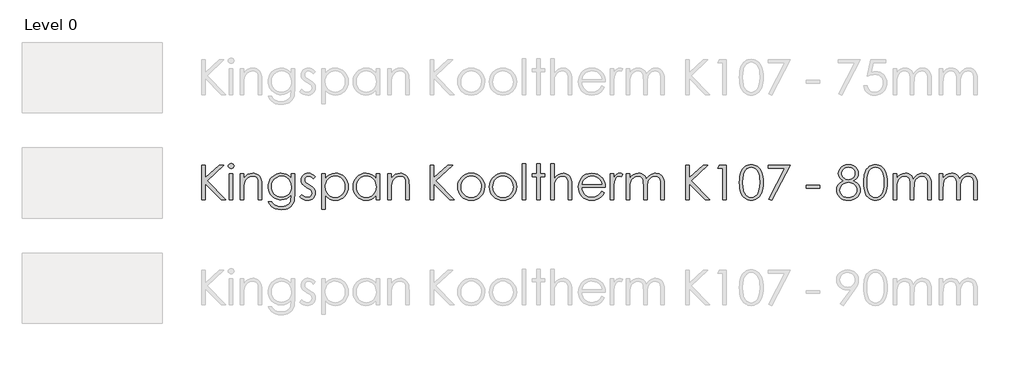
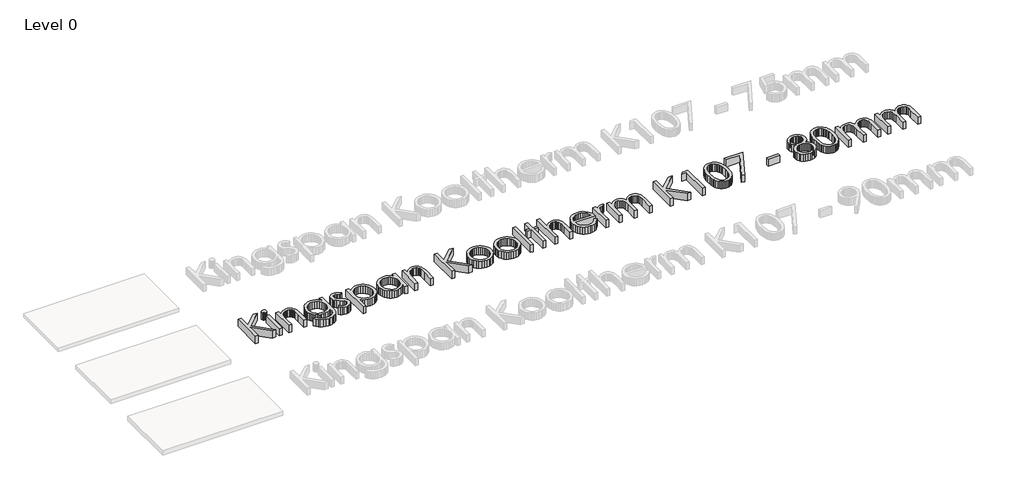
# One storey, part 7 of 13: 1 proxy.
"""IFC4 building model written with IfcOpenShell, lengths in millimetres."""

from ifc_helpers import new_model, si_unit, origin, origin_with_axes, place, context, project, spatial, polyline, outline, extrude, element, save

model = new_model("IFC4")

# Units and contexts
model_context = context("Model", 3, world=origin())
ifc_project = project(units=[si_unit("LENGTHUNIT", "METRE", prefix="MILLI")], contexts=[model_context])

# Site, building, storey
site = spatial("IfcSite", under=ifc_project)
building = spatial("IfcBuilding", under=site)
storey = spatial("IfcBuildingStorey", under=building, Name="Level 0", Elevation=0.0)

# Proxy
placement = place(None, origin())
element("IfcBuildingElementProxy", 1, Name="600mm KI_CenturyGothic", ObjectType="600mm KI_CenturyGothic", at=placement, inside=storey, context=model_context, shape_type="SweptSolid", body=[
    extrude(outline(polyline([(-3852.2663848, -4899.1034017), (-3792.944575, -4899.1034017), (-3792.944575, -5118.316027), (-3555.1938841, -4899.1034017), (-3471.6181051, -4899.1034017), (-3760.9664119, -5166.0515459), (-3441.9572002, -5492.3214999), (-3520.8984627, -5492.3214999), (-3792.944575, -5214.0960325), (-3792.944575, -5492.3214999), (-3852.2663848, -5492.3214999), (-3852.2663848, -4899.1034017)])), origin_with_axes(), (0.0, 0.0, 1.0), 150.0),
    extrude(outline(polyline([(-3348.1854852, -4869.4424967), (-3329.145347, -4872.7252792), (-3313.1176445, -4882.5736265), (-3302.226531, -4897.0178693), (-3298.5961598, -4914.088338), (-3302.226531, -4930.9270809), (-3313.1176445, -4945.2940817), (-3329.145347, -4955.142429), (-3348.1854852, -4958.4252115), (-3366.9938975, -4955.142429), (-3382.9443581, -4945.2940817), (-3393.8354717, -4930.9270809), (-3397.4658428, -4914.088338), (-3393.8354717, -4897.0178693), (-3382.9443581, -4882.5736265), (-3366.9938975, -4872.7252792), (-3348.1854852, -4869.4424967)])), origin_with_axes(), (0.0, 0.0, 1.0), 150.0),
    extrude(outline(polyline([(-3377.6919062, -5047.4079262), (-3318.3700964, -5047.4079262), (-3318.3700964, -5492.3214999), (-3377.6919062, -5492.3214999), (-3377.6919062, -5047.4079262)])), origin_with_axes(), (0.0, 0.0, 1.0), 150.0),
    extrude(outline(polyline([(-3189.8395084, -5047.4079262), (-3130.5176986, -5047.4079262), (-3130.5176986, -5126.5036726), (-3096.9946967, -5086.9944204), (-3060.0730495, -5059.303185), (-3019.7141359, -5042.9665147), (-2975.879335, -5037.5209579), (-2953.4357238, -5039.0995901), (-2932.2955704, -5043.8354865), (-2912.4588747, -5051.7286472), (-2893.9256368, -5062.7790723), (-2877.212412, -5076.5039994), (-2862.835756, -5092.4206667), (-2841.0921499, -5130.8292213), (-2833.6238199, -5155.2087086), (-2828.2892984, -5185.5551357), (-2824.0216812, -5264.1488095), (-2824.0216812, -5492.3214999), (-2883.343491, -5492.3214999), (-2883.343491, -5279.1337458), (-2883.343491, -5176.092998), (-2884.7290183, -5155.2956057), (-2889.8125035, -5137.2403023), (-2898.2849788, -5121.9270877), (-2910.1464442, -5109.355962), (-2924.7403432, -5099.5558909), (-2941.4101193, -5092.5558401), (-2980.977303, -5086.9557994), (-3005.3471351, -5089.1137461), (-3028.4038541, -5095.5875862), (-3050.1474602, -5106.3773197), (-3070.5779533, -5121.4829466), (-3088.6622225, -5139.7651482), (-3103.3671568, -5160.084606), (-3114.6927562, -5182.44132), (-3122.6390208, -5206.8352901), (-3128.5480292, -5253.9142525), (-3130.5176986, -5328.4141035), (-3130.5176986, -5492.3214999), (-3189.8395084, -5492.3214999), (-3189.8395084, -5047.4079262)])), origin_with_axes(), (0.0, 0.0, 1.0), 150.0),
    extrude(outline(polyline([(-2319.7862977, -5047.4079262), (-2260.4644879, -5047.4079262), (-2260.4644879, -5398.395301), (-2264.5196897, -5478.6496765), (-2269.588692, -5509.4499001), (-2276.6852953, -5534.0321474), (-2289.9371156, -5562.6454585), (-2307.2924139, -5587.7732271), (-2328.7511904, -5609.4154531), (-2354.3134448, -5627.5721366), (-2383.3226209, -5641.9343098), (-2415.122162, -5652.1930049), (-2449.7120682, -5658.348222), (-2487.0923395, -5660.3999611), (-2541.0458345, -5656.3833802), (-2589.206184, -5644.3336376), (-2630.260275, -5625.5059147), (-2662.8949946, -5601.1553932), (-2690.2000204, -5567.8061856), (-2715.2650299, -5521.9824048), (-2655.94322, -5521.9824048), (-2642.4355358, -5543.151524), (-2627.0933555, -5561.3951046), (-2609.9166791, -5576.7131468), (-2590.9055067, -5589.1056506), (-2569.7894914, -5598.6691682), (-2546.2982864, -5605.5002523), (-2492.1903075, -5610.9651195), (-2438.5071593, -5605.6354257), (-2415.083541, -5598.9733084), (-2393.93856, -5589.6463441), (-2359.6624492, -5565.6047903), (-2336.8567664, -5536.1176798), (-2329.3884364, -5517.4782342), (-2324.0539149, -5493.7697863), (-2319.7862977, -5431.1458835), (-2319.7862977, -5408.4367532), (-2354.757586, -5444.2190818), (-2396.6420279, -5470.6165148), (-2443.392712, -5486.8952536), (-2492.9627269, -5492.3214999), (-2522.4063889, -5490.4242447), (-2550.9521133, -5484.7324793), (-2578.5999001, -5475.2462036), (-2605.3497494, -5461.9654175), (-2630.1540674, -5445.4742634), (-2651.9652601, -5426.3568832), (-2670.7833277, -5404.6132772), (-2686.6082702, -5380.2434451), (-2699.1456025, -5353.9280817), (-2708.1008399, -5326.3478816), (-2713.4739824, -5297.5028447), (-2715.2650299, -5267.392971), (-2713.3967404, -5237.1044753), (-2707.7918722, -5207.8780563), (-2698.4504251, -5179.713714), (-2685.3723991, -5152.6114483), (-2668.9971079, -5127.4257483), (-2649.7638648, -5105.0111029), (-2627.67267, -5085.367512), (-2602.7235235, -5068.4949758), (-2575.9833294, -5054.943843), (-2548.5189922, -5045.2644624), (-2520.3305117, -5039.456834), (-2491.4178881, -5037.5209579), (-2444.5320306, -5042.4644421), (-2400.8903346, -5057.2948945), (-2359.6045177, -5083.8661218), (-2319.7862977, -5124.0319306), (-2319.7862977, -5047.4079262)]), holes=[polyline([(-2484.1571458, -5086.9557994), (-2529.0154023, -5092.9806707), (-2570.5908765, -5111.0552847), (-2606.2187212, -5139.7699758), (-2633.2340897, -5177.7150788), (-2650.2659375, -5221.9940208), (-2655.94322, -5269.7102292), (-2653.0080263, -5305.6229036), (-2644.2024452, -5338.2817613), (-2629.5264766, -5367.6868023), (-2608.9801206, -5393.8380266), (-2583.7606272, -5415.296803), (-2555.0652466, -5430.6245004), (-2522.8939786, -5439.8211189), (-2487.2468234, -5442.8866584), (-2451.3244937, -5439.845257), (-2419.1001219, -5430.7210528), (-2390.573708, -5415.5140459), (-2365.7452519, -5394.2242363), (-2345.6382095, -5367.9812872), (-2331.2760363, -5337.9148621), (-2322.6587323, -5304.024961), (-2319.7862977, -5266.3115838), (-2325.0773706, -5217.6105407), (-2340.9505892, -5174.3936754), (-2366.4983608, -5138.1672056), (-2400.8130926, -5110.4373492), (-2440.9982119, -5092.8261869), (-2484.1571458, -5086.9557994)])]), origin_with_axes(), (0.0, 0.0, 1.0), 150.0),
    extrude(outline(polyline([(-1904.5336289, -5098.6965743), (-1940.9918246, -5136.390641), (-1962.9575012, -5114.7628978), (-1984.6721416, -5099.3145098), (-2006.1357456, -5090.045477), (-2027.3483133, -5086.9557994), (-2052.181597, -5091.6289368), (-2073.2300256, -5105.6483489), (-2087.5970264, -5125.8857371), (-2092.3860267, -5149.212803), (-2088.4466878, -5170.7633042), (-2076.628671, -5191.2324183), (-2052.0657341, -5213.400855), (-2010.2006027, -5239.122421), (-1958.3326401, -5271.9888664), (-1939.8428507, -5287.8138088), (-1926.315856, -5303.2332311), (-1909.9791857, -5335.9065716), (-1904.5336289, -5372.4420092), (-1906.9474396, -5398.5884059), (-1914.1888714, -5422.6492701), (-1926.2579245, -5444.624602), (-1943.1545989, -5464.5144015), (-1963.6719892, -5481.0055557), (-1986.6031901, -5492.7849515), (-2011.9482016, -5499.852589), (-2039.7070237, -5502.2084682), (-2077.4397114, -5498.3270607), (-2113.3958344, -5486.6828383), (-2145.4512394, -5468.2027042), (-2171.4817731, -5443.8135617), (-2135.7959969, -5403.3387852), (-2114.0041146, -5424.9665283), (-2091.5749863, -5440.4149163), (-2068.5086121, -5449.6839491), (-2044.8049918, -5452.7736267), (-2013.637869, -5447.1349651), (-1987.4914724, -5430.2189802), (-1969.7644472, -5405.6560434), (-1963.8554388, -5377.0765256), (-1967.7561567, -5353.2860081), (-1979.4583106, -5332.2762005), (-2005.0253927, -5310.5712154), (-2050.2119275, -5283.7682622), (-2099.762632, -5253.1032121), (-2117.441381, -5237.9444814), (-2130.3890611, -5222.9016136), (-2146.3781427, -5190.7689666), (-2151.7078365, -5154.310771), (-2149.5305794, -5130.2643896), (-2142.9988078, -5108.3325063), (-2132.1125219, -5088.5151211), (-2116.8717217, -5070.812234), (-2098.309518, -5056.2473007), (-2077.4590218, -5045.8437769), (-2054.3202332, -5039.6016627), (-2028.8931521, -5037.5209579), (-1997.9481, -5041.3444339), (-1966.9064954, -5052.814862), (-1935.7683384, -5071.9322421), (-1904.5336289, -5098.6965743)])), origin_with_axes(), (0.0, 0.0, 1.0), 150.0),
    extrude(outline(polyline([(-1795.7769776, -5047.4079262), (-1736.4551678, -5047.4079262), (-1736.4551678, -5128.5119631), (-1700.9238754, -5088.2689124), (-1660.4490989, -5059.9211205), (-1614.9922173, -5043.1209986), (-1564.5146096, -5037.5209579), (-1520.0618732, -5041.7596094), (-1478.9305402, -5054.4755637), (-1441.1206107, -5075.668821), (-1406.6320845, -5105.3393811), (-1377.9077381, -5140.9768811), (-1357.3903478, -5180.070958), (-1345.0799137, -5222.6216116), (-1340.9764356, -5268.628842), (-1345.0412927, -5315.5291824), (-1357.235864, -5358.7508754), (-1377.5601494, -5398.293921), (-1406.014149, -5434.1583192), (-1440.2130179, -5463.9302594), (-1477.7719111, -5485.1959309), (-1518.6908288, -5497.9553339), (-1562.9697708, -5502.2084682), (-1612.6170277, -5496.743601), (-1658.0545988, -5480.3489992), (-1699.3211052, -5453.1019049), (-1736.4551678, -5415.07956), (-1736.4551678, -5650.5129928), (-1795.7769776, -5650.5129928), (-1795.7769776, -5047.4079262)]), holes=[polyline([(-1568.5311905, -5086.9557994), (-1602.5852307, -5090.2530647), (-1633.8392507, -5100.1448607), (-1662.2932503, -5116.6311872), (-1687.9472295, -5139.7120444), (-1709.1694525, -5167.6977647), (-1724.3281832, -5198.8986808), (-1733.4234216, -5233.3147926), (-1736.4551678, -5270.9461002), (-1731.048232, -5319.8016272), (-1714.8274246, -5363.4819442), (-1688.5265441, -5400.3263495), (-1652.8793888, -5428.6741414), (-1611.4390881, -5446.7487554), (-1567.7587711, -5452.7736267), (-1525.0632888, -5446.7101344), (-1485.0326535, -5428.5196576), (-1450.2544701, -5399.4187567), (-1423.3163435, -5360.6239924), (-1406.05277, -5315.9588407), (-1400.2982454, -5269.2467775), (-1405.9948385, -5222.3029886), (-1423.0846177, -5177.8695627), (-1449.8103289, -5139.5189395), (-1484.414718, -5110.8235589), (-1524.7157001, -5092.9227393), (-1568.5311905, -5086.9557994)])]), origin_with_axes(), (0.0, 0.0, 1.0), 150.0),
    extrude(outline(polyline([(-807.0801472, -5047.4079262), (-807.0801472, -5492.3214999), (-866.401957, -5492.3214999), (-866.401957, -5416.4699149), (-903.4780882, -5454.3184655), (-944.8797679, -5481.0441767), (-990.4525125, -5496.9173953), (-1040.0418379, -5502.2084682), (-1084.3159523, -5497.9553339), (-1125.2203871, -5485.1959309), (-1162.7551422, -5463.9302594), (-1196.9202178, -5434.1583192), (-1225.340424, -5398.293921), (-1245.6405713, -5358.7508754), (-1257.8206597, -5315.5291824), (-1261.8806892, -5268.628842), (-1257.7820388, -5222.6216116), (-1245.4860875, -5180.070958), (-1224.9928353, -5140.9768811), (-1196.3022822, -5105.3393811), (-1161.8475494, -5075.668821), (-1124.061758, -5054.4755637), (-1082.9449079, -5041.7596094), (-1038.4969991, -5037.5209579), (-987.7490446, -5043.1209986), (-942.0990581, -5059.9211205), (-921.2051134, -5072.6081091), (-901.6242816, -5088.2689124), (-866.401957, -5128.5119631), (-866.401957, -5047.4079262), (-807.0801472, -5047.4079262)]), holes=[polyline([(-1034.3259343, -5086.9557994), (-1078.1414247, -5092.9227393), (-1118.4424068, -5110.8235589), (-1153.0467959, -5139.5189395), (-1179.7725071, -5177.8695627), (-1196.8622863, -5222.3029886), (-1202.5588794, -5269.2467775), (-1196.8043548, -5315.9588407), (-1179.5407813, -5360.6239924), (-1152.6026548, -5399.4187567), (-1117.8244713, -5428.5196576), (-1077.6779731, -5446.7101344), (-1034.6349021, -5452.7736267), (-991.0125165, -5446.7487554), (-949.7460102, -5428.6741414), (-914.2726493, -5400.3263495), (-888.0297002, -5363.4819442), (-871.8088928, -5319.8016272), (-866.401957, -5270.9461002), (-869.4337032, -5233.3147926), (-878.5289416, -5198.8986808), (-893.6876723, -5167.6977647), (-914.9098953, -5139.7120444), (-940.5638746, -5116.6311872), (-969.0178742, -5100.1448607), (-1000.2718941, -5090.2530647), (-1034.3259343, -5086.9557994)])]), origin_with_axes(), (0.0, 0.0, 1.0), 150.0),
    extrude(outline(polyline([(-668.662591, -5047.4079262), (-609.3407811, -5047.4079262), (-609.3407811, -5126.5036726), (-575.8177792, -5086.9944204), (-538.896132, -5059.303185), (-498.5372184, -5042.9665147), (-454.7024175, -5037.5209579), (-432.2588064, -5039.0995901), (-411.1186529, -5043.8354865), (-391.2819572, -5051.7286472), (-372.7487193, -5062.7790723), (-356.0354946, -5076.5039994), (-341.6588385, -5092.4206667), (-319.9152324, -5130.8292213), (-312.4469024, -5155.2087086), (-307.1123809, -5185.5551357), (-302.8447637, -5264.1488095), (-302.8447637, -5492.3214999), (-362.1665735, -5492.3214999), (-362.1665735, -5279.1337458), (-362.1665735, -5176.092998), (-363.5521008, -5155.2956057), (-368.635586, -5137.2403023), (-377.1080613, -5121.9270877), (-388.9695267, -5109.355962), (-403.5634257, -5099.5558909), (-420.2332018, -5092.5558401), (-459.8003855, -5086.9557994), (-484.1702176, -5089.1137461), (-507.2269366, -5095.5875862), (-528.9705427, -5106.3773197), (-549.4010358, -5121.4829466), (-567.485305, -5139.7651482), (-582.1902393, -5160.084606), (-593.5158387, -5182.44132), (-601.4621033, -5206.8352901), (-607.3711117, -5253.9142525), (-609.3407811, -5328.4141035), (-609.3407811, -5492.3214999), (-668.662591, -5492.3214999), (-668.662591, -5047.4079262)])), origin_with_axes(), (0.0, 0.0, 1.0), 150.0),
    extrude(outline(polyline([(62.9730635, -4899.1034017), (122.2948734, -4899.1034017), (122.2948734, -5118.316027), (360.0455643, -4899.1034017), (443.6213432, -4899.1034017), (154.2730365, -5166.0515459), (473.2822481, -5492.3214999), (394.3409856, -5492.3214999), (122.2948734, -5214.0960325), (122.2948734, -5492.3214999), (62.9730635, -5492.3214999), (62.9730635, -4899.1034017)])), origin_with_axes(), (0.0, 0.0, 1.0), 150.0),
    extrude(outline(polyline([(760.1588128, -5037.5209579), (809.4681362, -5042.1458191), (854.3553585, -5056.0204025), (894.8204798, -5079.1447083), (930.8635, -5111.5187363), (957.7630055, -5146.7507161), (976.9769381, -5185.091684), (988.5052976, -5226.54164), (992.3480841, -5271.1005841), (988.283227, -5315.9153921), (976.0886558, -5357.8239721), (955.7643703, -5396.8263241), (927.3103707, -5432.9224481), (892.4742558, -5463.2350819), (853.0036246, -5484.8869632), (808.8984769, -5497.8780919), (760.1588128, -5502.2084682), (711.2839754, -5497.8780919), (667.0822753, -5484.8869632), (627.5537126, -5463.2350819), (592.6982872, -5432.9224481), (564.2442876, -5396.8263241), (543.9200022, -5357.8239721), (531.7254309, -5315.9153921), (527.6605738, -5271.1005841), (531.5033603, -5226.7347449), (543.0317198, -5185.4006518), (562.2456524, -5147.0983049), (589.145158, -5111.8277041), (625.2074886, -5079.3185026), (665.7305413, -5056.0976445), (710.7143161, -5042.1651295), (760.1588128, -5037.5209579)]), holes=[polyline([(760.004329, -5086.9557994), (725.7282181, -5090.3303067), (693.9624704, -5100.4538284), (664.7070856, -5117.3263647), (637.962064, -5140.9479154), (615.6584538, -5169.3584664), (599.7273037, -5200.5980035), (590.1686137, -5234.6665266), (586.9823836, -5271.5640357), (592.7948396, -5319.2995546), (610.2322075, -5363.6364281), (637.5758543, -5401.4270471), (673.1071466, -5429.5238028), (714.6439998, -5446.9611707), (760.004329, -5452.7736267), (805.3646581, -5446.9611707), (846.9015113, -5429.5238028), (882.4328037, -5401.4270471), (909.7764504, -5363.6364281), (927.2138183, -5319.2995546), (933.0262743, -5271.5640357), (929.8255614, -5234.6665266), (920.2234227, -5200.5980035), (904.2198583, -5169.3584664), (881.8148681, -5140.9479154), (854.9974321, -5117.3263647), (825.7565303, -5100.4538284), (794.0921625, -5090.3303067), (760.004329, -5086.9557994)])]), origin_with_axes(), (0.0, 0.0, 1.0), 150.0),
    extrude(outline(polyline([(1303.9420695, -5037.5209579), (1353.2513929, -5042.1458191), (1398.1386152, -5056.0204025), (1438.6037365, -5079.1447083), (1474.6467567, -5111.5187363), (1501.5462622, -5146.7507161), (1520.7601948, -5185.091684), (1532.2885543, -5226.54164), (1536.1313408, -5271.1005841), (1532.0664837, -5315.9153921), (1519.8719125, -5357.8239721), (1499.547627, -5396.8263241), (1471.0936274, -5432.9224481), (1436.2575126, -5463.2350819), (1396.7868813, -5484.8869632), (1352.6817336, -5497.8780919), (1303.9420695, -5502.2084682), (1255.0672321, -5497.8780919), (1210.865532, -5484.8869632), (1171.3369693, -5463.2350819), (1136.4815439, -5432.9224481), (1108.0275443, -5396.8263241), (1087.7032589, -5357.8239721), (1075.5086876, -5315.9153921), (1071.4438305, -5271.1005841), (1075.286617, -5226.7347449), (1086.8149766, -5185.4006518), (1106.0289091, -5147.0983049), (1132.9284147, -5111.8277041), (1168.9907453, -5079.3185026), (1209.5137981, -5056.0976445), (1254.4975728, -5042.1651295), (1303.9420695, -5037.5209579)]), holes=[polyline([(1303.7875857, -5086.9557994), (1269.5114748, -5090.3303067), (1237.7457271, -5100.4538284), (1208.4903423, -5117.3263647), (1181.7453207, -5140.9479154), (1159.4417105, -5169.3584664), (1143.5105604, -5200.5980035), (1133.9518704, -5234.6665266), (1130.7656404, -5271.5640357), (1136.5780963, -5319.2995546), (1154.0154643, -5363.6364281), (1181.359111, -5401.4270471), (1216.8904033, -5429.5238028), (1258.4272565, -5446.9611707), (1303.7875857, -5452.7736267), (1349.1479149, -5446.9611707), (1390.684768, -5429.5238028), (1426.2160604, -5401.4270471), (1453.5597071, -5363.6364281), (1470.997075, -5319.2995546), (1476.809531, -5271.5640357), (1473.6088181, -5234.6665266), (1464.0066795, -5200.5980035), (1448.003115, -5169.3584664), (1425.5981249, -5140.9479154), (1398.7806889, -5117.3263647), (1369.539787, -5100.4538284), (1337.8754193, -5090.3303067), (1303.7875857, -5086.9557994)])]), origin_with_axes(), (0.0, 0.0, 1.0), 150.0),
    extrude(outline(polyline([(1635.0010238, -4879.3294651), (1694.3228337, -4879.3294651), (1694.3228337, -5492.3214999), (1635.0010238, -5492.3214999), (1635.0010238, -4879.3294651)])), origin_with_axes(), (0.0, 0.0, 1.0), 150.0),
    extrude(outline(polyline([(1882.1752314, -4879.3294651), (1941.4970413, -4879.3294651), (1941.4970413, -5047.4079262), (2020.5927877, -5047.4079262), (2020.5927877, -5096.8427677), (1941.4970413, -5096.8427677), (1941.4970413, -5492.3214999), (1882.1752314, -5492.3214999), (1882.1752314, -5096.8427677), (1803.079485, -5096.8427677), (1803.079485, -5047.4079262), (1882.1752314, -5047.4079262), (1882.1752314, -4879.3294651)])), origin_with_axes(), (0.0, 0.0, 1.0), 150.0),
    extrude(outline(polyline([(2119.4624707, -4879.3294651), (2178.7842806, -4879.3294651), (2178.7842806, -5128.0485114), (2212.5583188, -5088.3461544), (2249.6151394, -5060.0756044), (2289.9161216, -5043.1596195), (2333.4226442, -5037.5209579), (2355.8662553, -5039.0995901), (2377.0064088, -5043.8354865), (2396.8431044, -5051.7286472), (2415.3763424, -5062.7790723), (2432.0895671, -5076.4895166), (2446.4662232, -5092.3627352), (2468.2098293, -5130.5974955), (2475.6781593, -5154.9045684), (2481.0126808, -5185.2654784), (2485.280298, -5264.1488095), (2485.280298, -5492.3214999), (2425.9584882, -5492.3214999), (2425.9584882, -5279.1337458), (2424.5681332, -5214.752589), (2420.3970685, -5176.092998), (2406.879729, -5137.2403023), (2397.1665551, -5121.9270877), (2385.4837117, -5109.355962), (2371.840854, -5099.5558909), (2356.2476374, -5092.5558401), (2319.2101273, -5086.9557994), (2296.3416854, -5089.1137461), (2274.6994594, -5095.5875862), (2254.2834492, -5106.3773197), (2235.0936547, -5121.4829466), (2218.1052556, -5139.7651482), (2204.2934312, -5160.084606), (2193.6581816, -5182.44132), (2186.1995068, -5206.8352901), (2180.6380871, -5253.6825267), (2178.7842806, -5328.4141035), (2178.7842806, -5492.3214999), (2119.4624707, -5492.3214999), (2119.4624707, -4879.3294651)])), origin_with_axes(), (0.0, 0.0, 1.0), 150.0),
    extrude(outline(polyline([(2991.0605203, -5344.0169753), (3038.950523, -5369.1978477), (3013.3255094, -5411.0822896), (2984.0315038, -5444.0452875), (2950.952643, -5469.1296074), (2913.9730643, -5487.3780157), (2872.4941426, -5498.5008551), (2825.9172528, -5502.2084682), (2774.4258447, -5497.7767119), (2728.8627554, -5484.481443), (2689.227985, -5462.3226615), (2655.5215335, -5431.3003674), (2628.6220279, -5394.6973431), (2609.4080954, -5355.7963712), (2597.8797358, -5314.5974515), (2594.0369493, -5271.1005841), (2597.3197318, -5230.2202874), (2607.1680791, -5191.618628), (2623.5819913, -5155.2956057), (2646.5614684, -5121.2512207), (2682.7493173, -5084.6192308), (2724.5758277, -5058.4535236), (2772.0409998, -5042.7540993), (2825.1448334, -5037.5209579), (2879.7935059, -5042.8892727), (2928.6490329, -5058.9942172), (2971.7114143, -5085.8357913), (3008.9806503, -5123.4139951), (3030.4539096, -5155.585263), (3045.9022976, -5191.541386), (3055.3258143, -5231.2823641), (3058.7244596, -5274.8081972), (2653.3587591, -5274.8081972), (2657.095338, -5312.0629503), (2666.6057518, -5345.8128504), (2681.8900007, -5376.0578975), (2702.9480845, -5402.7980916), (2728.3124066, -5424.6623882), (2756.5153699, -5440.2797429), (2787.5569744, -5449.6501557), (2821.4372203, -5452.7736267), (2854.9602222, -5449.761191), (2887.5563208, -5440.7238841), (2917.2944677, -5426.6851615), (2942.2436143, -5408.668479), (2965.725164, -5382.5027719), (2991.0605203, -5344.0169753)]), holes=[polyline([(2999.4026498, -5225.3733557), (2984.9777175, -5182.8516678), (2965.1844704, -5149.8307385), (2939.0766947, -5124.3022774), (2905.7081767, -5104.257994), (2867.7630738, -5091.2813481), (2827.9255433, -5086.9557994), (2795.503239, -5089.6689226), (2765.4368139, -5097.808292), (2737.726268, -5111.3739077), (2712.3716012, -5130.3657696), (2695.8321708, -5148.179692), (2681.4362043, -5169.9522638), (2669.1837016, -5195.683485), (2659.0746627, -5225.3733557), (2999.4026498, -5225.3733557)])]), origin_with_axes(), (0.0, 0.0, 1.0), 150.0),
    extrude(outline(polyline([(3137.820206, -5047.4079262), (3197.1420159, -5047.4079262), (3197.1420159, -5111.8277041), (3222.6897875, -5078.7874643), (3249.589293, -5055.6728138), (3277.7632906, -5042.0589219), (3307.1345382, -5037.5209579), (3330.4616041, -5041.305813), (3355.3335087, -5052.6603781), (3325.8270877, -5094.6799934), (3297.2475699, -5086.9557994), (3270.8308265, -5092.9034288), (3245.3409863, -5110.7463169), (3223.2884125, -5141.1023993), (3207.183468, -5184.5896114), (3199.6523789, -5242.7141712), (3197.1420159, -5340.1548783), (3197.1420159, -5492.3214999), (3137.820206, -5492.3214999), (3137.820206, -5047.4079262)])), origin_with_axes(), (0.0, 0.0, 1.0), 150.0),
    extrude(outline(polyline([(3414.6553185, -5047.4079262), (3473.9771284, -5047.4079262), (3473.9771284, -5123.5684789), (3503.5607913, -5087.0716623), (3533.9168737, -5061.9294109), (3577.3268439, -5043.6230712), (3622.8995884, -5037.5209579), (3653.7384329, -5040.668567), (3682.9165757, -5050.1113941), (3708.6767627, -5064.7873627), (3729.2617397, -5083.634396), (3746.0425511, -5109.0663047), (3760.3902414, -5143.4968994), (3775.16759, -5119.0981017), (3791.6925376, -5097.808292), (3809.965084, -5079.6274704), (3829.9852293, -5064.5556369), (3851.2798666, -5052.7279648), (3873.375889, -5044.2796277), (3896.2732965, -5039.2106253), (3919.9720892, -5037.5209579), (3962.3006723, -5043.3334139), (3981.4952943, -5050.5989839), (3999.3768034, -5060.7707818), (4015.4914031, -5073.53984), (4029.385297, -5088.5971907), (4050.5109676, -5125.5767694), (4057.8103309, -5148.9521114), (4063.0241619, -5177.5219739), (4067.1952266, -5250.2452603), (4067.1952266, -5492.3214999), (4007.8734168, -5492.3214999), (4007.8734168, -5246.6921311), (4005.4209852, -5185.5744462), (3998.0636904, -5147.1272706), (3984.7587663, -5122.6608861), (3964.4634466, -5103.4855746), (3938.3942919, -5091.0882432), (3907.7678627, -5086.9557994), (3888.1194443, -5088.5054659), (3869.3399976, -5093.1544651), (3834.3880198, -5111.7504621), (3805.6540182, -5140.6968791), (3785.8800816, -5177.9468046), (3779.1889985, -5202.1042213), (3774.4096535, -5233.1747916), (3770.5861775, -5316.0553931), (3770.5861775, -5492.3214999), (3711.2643677, -5492.3214999), (3711.2643677, -5261.9860352), (3708.850557, -5193.530366), (3701.6091252, -5151.2983353), (3688.3621325, -5125.0553863), (3667.9316394, -5104.5669617), (3641.6114484, -5091.35859), (3610.6953619, -5086.9557994), (3573.7544042, -5092.9999812), (3539.2465676, -5111.1325266), (3510.2808401, -5139.499629), (3489.9662099, -5176.2474819), (3477.9743988, -5228.0768236), (3473.9771284, -5301.6883923), (3473.9771284, -5492.3214999), (3414.6553185, -5492.3214999), (3414.6553185, -5047.4079262)])), origin_with_axes(), (0.0, 0.0, 1.0), 150.0),
    extrude(outline(polyline([(4433.0130538, -4899.1034017), (4492.3348637, -4899.1034017), (4492.3348637, -5118.316027), (4730.0855546, -4899.1034017), (4813.6613335, -4899.1034017), (4524.3130268, -5166.0515459), (4843.3222385, -5492.3214999), (4764.3809759, -5492.3214999), (4492.3348637, -5214.0960325), (4492.3348637, -5492.3214999), (4433.0130538, -5492.3214999), (4433.0130538, -4899.1034017)])), origin_with_axes(), (0.0, 0.0, 1.0), 150.0),
    extrude(outline(polyline([(5010.6282802, -4899.1034017), (5125.1008351, -4899.1034017), (5125.1008351, -5492.3214999), (5065.7790253, -5492.3214999), (5065.7790253, -4948.5382432), (4976.7963106, -4948.5382432), (5010.6282802, -4899.1034017)])), origin_with_axes(), (0.0, 0.0, 1.0), 150.0),
    extrude(outline(polyline([(5352.5011061, -5195.8669347), (5354.0797383, -5141.4355052), (5358.8156347, -5093.5406748), (5366.7087954, -5052.1824436), (5377.7592204, -5017.3608116), (5391.6869077, -4987.7192172), (5408.2118552, -4961.9010988), (5427.334063, -4939.9064564), (5449.053531, -4921.73529), (5472.747496, -4907.5082902), (5497.793195, -4897.3461475), (5524.190628, -4891.2488619), (5551.9397949, -4889.2164334), (5580.1427582, -4891.2633448), (5606.974677, -4897.404079), (5632.4355515, -4907.638636), (5656.5253815, -4921.9670159), (5678.7083011, -4940.3843909), (5698.4484443, -4962.8859335), (5715.7458112, -4989.4716437), (5730.6004018, -5020.1415214), (5742.5294539, -5055.6583309), (5751.0502054, -5096.7848363), (5756.1626563, -5143.5210375), (5757.8668066, -5195.8669347), (5756.1867944, -5248.0535203), (5751.1467578, -5294.6207548), (5742.7466968, -5335.5686382), (5730.9866115, -5370.8971704), (5716.2768496, -5401.4222195), (5699.0277589, -5427.9596535), (5679.2393394, -5450.5094723), (5656.9115912, -5469.071676), (5632.6527944, -5483.5690226), (5607.0712295, -5493.9242701), (5580.1668963, -5500.1374187), (5551.9397949, -5502.2084682), (5524.2147661, -5500.2001778), (5497.8897474, -5494.1753064), (5472.964739, -5484.1338543), (5449.4397407, -5470.0758212), (5427.8651013, -5452.0398282), (5408.7911698, -5430.0644964), (5392.2179461, -5404.1498255), (5378.1454301, -5374.2958158), (5366.9260384, -5339.2762513), (5358.9121871, -5297.8649163), (5354.1038764, -5250.0618107), (5352.5011061, -5195.8669347)]), holes=[polyline([(5411.8229159, -5195.7124508), (5416.206396, -5284.038609), (5421.6857461, -5319.0195525), (5429.3568363, -5347.8790723), (5439.1713903, -5372.1185586), (5451.0811319, -5393.2394015), (5465.0860611, -5411.2416011), (5481.1861779, -5426.1251574), (5516.4857445, -5446.1115094), (5534.8886366, -5451.1080973), (5553.7936014, -5452.7736267), (5572.7854634, -5451.1418907), (5591.1400794, -5446.2466828), (5625.9375733, -5426.665851), (5641.694929, -5411.9898824), (5655.4439943, -5394.0697524), (5667.1847692, -5372.9054608), (5676.9172536, -5348.4970078), (5686.3793912, -5315.1381451), (5693.138061, -5278.5544313), (5698.5449967, -5195.7124508), (5693.7173755, -5114.1063413), (5687.682849, -5079.4150551), (5679.2345118, -5048.7982811), (5668.652366, -5022.135329), (5656.2164137, -4999.3055082), (5641.9266548, -4980.3088186), (5625.7830894, -4965.1452603), (5590.7152487, -4945.2747712), (5572.4861509, -4940.307149), (5553.7936014, -4938.6512749), (5534.7776014, -4940.307149), (5516.3505711, -4945.2747712), (5481.2634199, -4965.1452603), (5465.3177869, -4979.9564022), (5451.3900996, -4997.8958428), (5439.480358, -5018.9635819), (5429.5885621, -5043.1596195), (5421.8160919, -5072.0143117), (5416.2643275, -5107.0580143), (5411.8229159, -5195.7124508)])]), origin_with_axes(), (0.0, 0.0, 1.0), 150.0),
    extrude(outline(polyline([(5846.8495213, -4899.1034017), (6222.5543169, -4899.1034017), (5906.1713311, -5502.2084682), (5852.2564571, -5479.8083056), (6130.9453762, -4948.5382432), (5846.8495213, -4948.5382432), (5846.8495213, -4899.1034017)])), origin_with_axes(), (0.0, 0.0, 1.0), 150.0),
    extrude(outline(polyline([(6499.3894294, -5245.1472923), (6726.7897004, -5245.1472923), (6726.7897004, -5294.5821338), (6499.3894294, -5294.5821338), (6499.3894294, -5245.1472923)])), origin_with_axes(), (0.0, 0.0, 1.0), 150.0),
    extrude(outline(polyline([(7304.095959, -5168.2143202), (7356.1956474, -5199.6131687), (7376.0178602, -5216.8477766), (7391.6883188, -5235.1058401), (7403.5835775, -5254.5225327), (7412.0801909, -5275.2330279), (7417.1781589, -5297.2373255), (7418.8774816, -5320.5354256), (7416.0581508, -5353.2184214), (7407.6001584, -5383.9124373), (7393.5035044, -5412.6174732), (7373.7681887, -5439.3335291), (7343.0741729, -5466.841315), (7306.4518381, -5486.4897334), (7263.9011845, -5498.2787845), (7215.422212, -5502.2084682), (7168.7584251, -5498.756719), (7128.100199, -5488.4014714), (7093.4475337, -5471.1427255), (7064.8004292, -5446.9804812), (7042.3616457, -5418.6664826), (7026.3339432, -5388.9524739), (7016.7173217, -5357.838455), (7013.5117812, -5325.3244259), (7015.2255867, -5301.5966675), (7020.3670033, -5279.0758144), (7028.936031, -5257.7618666), (7040.9326698, -5237.6548241), (7056.8300266, -5218.6871003), (7077.1012082, -5200.7911083), (7101.7462146, -5183.9668483), (7130.7650459, -5168.2143202), (7092.3951123, -5143.2651736), (7065.0321551, -5112.9090912), (7048.6375533, -5078.6522909), (7043.1726861, -5042.0009904), (7048.9658316, -5004.2876133), (7066.345268, -4967.4625184), (7093.9592615, -4934.9436618), (7130.4560781, -4910.1489991), (7173.055008, -4894.4495748), (7218.9753412, -4889.2164334), (7263.7177349, -4894.4881958), (7304.9456203, -4910.3034829), (7340.1486344, -4935.1753876), (7366.8164141, -4967.6170023), (7383.6165361, -5004.7510649), (7389.2165767, -5043.7003131), (7383.9061933, -5081.2398959), (7367.9750432, -5114.45393), (7341.3845054, -5143.4196575), (7304.095959, -5168.2143202)]), holes=[polyline([(7219.284309, -5195.7124508), (7189.4158164, -5198.2228138), (7162.067342, -5205.753903), (7137.238886, -5218.3057182), (7114.9304482, -5235.8782595), (7096.5130732, -5256.7818595), (7083.3578053, -5279.3268507), (7075.4646446, -5303.5132331), (7072.833591, -5329.3410068), (7077.332934, -5361.4543433), (7090.830963, -5391.6752522), (7112.4007747, -5417.6092335), (7141.1154658, -5436.8617871), (7175.9902017, -5448.7956668), (7216.0401475, -5452.7736267), (7247.2603741, -5450.3549884), (7275.110921, -5443.0990737), (7299.5917884, -5431.0058825), (7320.702976, -5414.0754148), (7337.7010304, -5393.9104409), (7349.8424979, -5372.113731), (7357.1273783, -5348.6852851), (7359.5556718, -5323.6251032), (7356.9873773, -5299.2938921), (7349.2824938, -5276.353036), (7336.4410213, -5254.8025348), (7318.4629598, -5234.6423885), (7296.8545271, -5217.6105407), (7273.1219411, -5205.4449352), (7247.2652017, -5198.1455719), (7219.284309, -5195.7124508)]), polyline([(7216.0401475, -4938.6512749), (7192.5344597, -4940.5099091), (7171.14327, -4946.0858116), (7151.8665783, -4955.3789825), (7134.7043848, -4968.3894217), (7120.6125584, -4983.9778107), (7110.5469681, -5001.0048308), (7104.507614, -5019.4704821), (7102.4944959, -5039.3747645), (7104.6620978, -5059.2838745), (7111.1649037, -5078.2274602), (7122.0029133, -5096.2055217), (7137.1761269, -5113.218059), (7155.236258, -5127.6816122), (7174.7350202, -5138.0127217), (7195.6724135, -5144.2113874), (7218.048438, -5146.2776093), (7246.7631291, -5142.5313752), (7273.8943605, -5131.2926729), (7297.3565997, -5113.5463372), (7315.0643144, -5090.2772028), (7326.1871538, -5064.2273586), (7329.8947669, -5038.1388934), (7328.0699261, -5019.9677271), (7322.5954036, -5002.5303592), (7313.4711994, -4985.8267897), (7300.6973136, -4969.8570186), (7284.4571958, -4956.2045057), (7264.9342955, -4946.4527108), (7242.1286127, -4940.6016339), (7216.0401475, -4938.6512749)])]), origin_with_axes(), (0.0, 0.0, 1.0), 150.0),
    extrude(outline(polyline([(7478.1992914, -5195.8669347), (7479.7779236, -5141.4355052), (7484.51382, -5093.5406748), (7492.4069808, -5052.1824436), (7503.4574058, -5017.3608116), (7517.3850931, -4987.7192172), (7533.9100406, -4961.9010988), (7553.0322483, -4939.9064564), (7574.7517163, -4921.73529), (7598.4456813, -4907.5082902), (7623.4913804, -4897.3461475), (7649.8888133, -4891.2488619), (7677.6379802, -4889.2164334), (7705.8409435, -4891.2633448), (7732.6728624, -4897.404079), (7758.1337368, -4907.638636), (7782.2235668, -4921.9670159), (7804.4064864, -4940.3843909), (7824.1466297, -4962.8859335), (7841.4439966, -4989.4716437), (7856.2985871, -5020.1415214), (7868.2276392, -5055.6583309), (7876.7483907, -5096.7848363), (7881.8608416, -5143.5210375), (7883.5649919, -5195.8669347), (7881.8849797, -5248.0535203), (7876.8449431, -5294.6207548), (7868.4448822, -5335.5686382), (7856.6847968, -5370.8971704), (7841.9750349, -5401.4222195), (7824.7259442, -5427.9596535), (7804.9375247, -5450.5094723), (7782.6097765, -5469.071676), (7758.3509797, -5483.5690226), (7732.7694148, -5493.9242701), (7705.8650816, -5500.1374187), (7677.6379802, -5502.2084682), (7649.9129514, -5500.2001778), (7623.5879328, -5494.1753064), (7598.6629243, -5484.1338543), (7575.137926, -5470.0758212), (7553.5632867, -5452.0398282), (7534.4893551, -5430.0644964), (7517.9161314, -5404.1498255), (7503.8436155, -5374.2958158), (7492.6242237, -5339.2762513), (7484.6103725, -5297.8649163), (7479.8020617, -5250.0618107), (7478.1992914, -5195.8669347)]), holes=[polyline([(7537.5211013, -5195.7124508), (7541.9045814, -5284.038609), (7547.3839315, -5319.0195525), (7555.0550216, -5347.8790723), (7564.8695756, -5372.1185586), (7576.7793172, -5393.2394015), (7590.7842464, -5411.2416011), (7606.8843633, -5426.1251574), (7642.1839298, -5446.1115094), (7660.586822, -5451.1080973), (7679.4917868, -5452.7736267), (7698.4836487, -5451.1418907), (7716.8382647, -5446.2466828), (7751.6357586, -5426.665851), (7767.3931143, -5411.9898824), (7781.1421796, -5394.0697524), (7792.8829545, -5372.9054608), (7802.6154389, -5348.4970078), (7812.0775766, -5315.1381451), (7818.8362463, -5278.5544313), (7824.2431821, -5195.7124508), (7819.4155608, -5114.1063413), (7813.3810343, -5079.4150551), (7804.9326971, -5048.7982811), (7794.3505514, -5022.135329), (7781.914599, -4999.3055082), (7767.6248402, -4980.3088186), (7751.4812747, -4965.1452603), (7716.413434, -4945.2747712), (7698.1843362, -4940.307149), (7679.4917868, -4938.6512749), (7660.4757867, -4940.307149), (7642.0487564, -4945.2747712), (7606.9616052, -4965.1452603), (7591.0159723, -4979.9564022), (7577.088285, -4997.8958428), (7565.1785434, -5018.9635819), (7555.2867474, -5043.1596195), (7547.5142772, -5072.0143117), (7541.9625128, -5107.0580143), (7537.5211013, -5195.7124508)])]), origin_with_axes(), (0.0, 0.0, 1.0), 150.0),
    extrude(outline(polyline([(7982.4346749, -5047.4079262), (8041.7564848, -5047.4079262), (8041.7564848, -5123.5684789), (8071.3401477, -5087.0716623), (8101.6962301, -5061.9294109), (8145.1062003, -5043.6230712), (8190.6789448, -5037.5209579), (8221.5177893, -5040.668567), (8250.6959321, -5050.1113941), (8276.4561191, -5064.7873627), (8297.0410961, -5083.634396), (8313.8219075, -5109.0663047), (8328.1695978, -5143.4968994), (8342.9469464, -5119.0981017), (8359.471894, -5097.808292), (8377.7444404, -5079.6274704), (8397.7645856, -5064.5556369), (8419.0592229, -5052.7279648), (8441.1552454, -5044.2796277), (8464.0526529, -5039.2106253), (8487.7514456, -5037.5209579), (8530.0800287, -5043.3334139), (8549.2746507, -5050.5989839), (8567.1561598, -5060.7707818), (8583.2707595, -5073.53984), (8597.1646534, -5088.5971907), (8618.290324, -5125.5767694), (8625.5896873, -5148.9521114), (8630.8035182, -5177.5219739), (8634.974583, -5250.2452603), (8634.974583, -5492.3214999), (8575.6527732, -5492.3214999), (8575.6527732, -5246.6921311), (8573.2003416, -5185.5744462), (8565.8430468, -5147.1272706), (8552.5381227, -5122.6608861), (8532.242803, -5103.4855746), (8506.1736483, -5091.0882432), (8475.5472191, -5086.9557994), (8455.8988006, -5088.5054659), (8437.119354, -5093.1544651), (8402.1673762, -5111.7504621), (8373.4333746, -5140.6968791), (8353.659438, -5177.9468046), (8346.9683549, -5202.1042213), (8342.1890099, -5233.1747916), (8338.3655339, -5316.0553931), (8338.3655339, -5492.3214999), (8279.0437241, -5492.3214999), (8279.0437241, -5261.9860352), (8276.6299134, -5193.530366), (8269.3884816, -5151.2983353), (8256.1414889, -5125.0553863), (8235.7109958, -5104.5669617), (8209.3908048, -5091.35859), (8178.4747183, -5086.9557994), (8141.5337606, -5092.9999812), (8107.025924, -5111.1325266), (8078.0601965, -5139.499629), (8057.7455663, -5176.2474819), (8045.7537552, -5228.0768236), (8041.7564848, -5301.6883923), (8041.7564848, -5492.3214999), (7982.4346749, -5492.3214999), (7982.4346749, -5047.4079262)])), origin_with_axes(), (0.0, 0.0, 1.0), 150.0),
    extrude(outline(polyline([(8773.3921393, -5047.4079262), (8832.7139491, -5047.4079262), (8832.7139491, -5123.5684789), (8862.2976121, -5087.0716623), (8892.6536944, -5061.9294109), (8936.0636646, -5043.6230712), (8981.6364092, -5037.5209579), (9012.4752537, -5040.668567), (9041.6533964, -5050.1113941), (9067.4135834, -5064.7873627), (9087.9985604, -5083.634396), (9104.7793718, -5109.0663047), (9119.1270621, -5143.4968994), (9133.9044108, -5119.0981017), (9150.4293583, -5097.808292), (9168.7019047, -5079.6274704), (9188.72205, -5064.5556369), (9210.0166873, -5052.7279648), (9232.1127097, -5044.2796277), (9255.0101172, -5039.2106253), (9278.7089099, -5037.5209579), (9321.037493, -5043.3334139), (9340.232115, -5050.5989839), (9358.1136241, -5060.7707818), (9374.2282238, -5073.53984), (9388.1221177, -5088.5971907), (9409.2477883, -5125.5767694), (9416.5471516, -5148.9521114), (9421.7609826, -5177.5219739), (9425.9320473, -5250.2452603), (9425.9320473, -5492.3214999), (9366.6102375, -5492.3214999), (9366.6102375, -5246.6921311), (9364.1578059, -5185.5744462), (9356.8005111, -5147.1272706), (9343.495587, -5122.6608861), (9323.2002673, -5103.4855746), (9297.1311126, -5091.0882432), (9266.5046834, -5086.9557994), (9246.856265, -5088.5054659), (9228.0768183, -5093.1544651), (9193.1248405, -5111.7504621), (9164.3908389, -5140.6968791), (9144.6169023, -5177.9468046), (9137.9258192, -5202.1042213), (9133.1464742, -5233.1747916), (9129.3229982, -5316.0553931), (9129.3229982, -5492.3214999), (9070.0011884, -5492.3214999), (9070.0011884, -5261.9860352), (9067.5873778, -5193.530366), (9060.3459459, -5151.2983353), (9047.0989532, -5125.0553863), (9026.6684601, -5104.5669617), (9000.3482691, -5091.35859), (8969.4321827, -5086.9557994), (8932.4912249, -5092.9999812), (8897.9833883, -5111.1325266), (8869.0176608, -5139.499629), (8848.7030306, -5176.2474819), (8836.7112195, -5228.0768236), (8832.7139491, -5301.6883923), (8832.7139491, -5492.3214999), (8773.3921393, -5492.3214999), (8773.3921393, -5047.4079262)])), origin_with_axes(), (0.0, 0.0, 1.0), 150.0),
])

save(model, "model.ifc")
